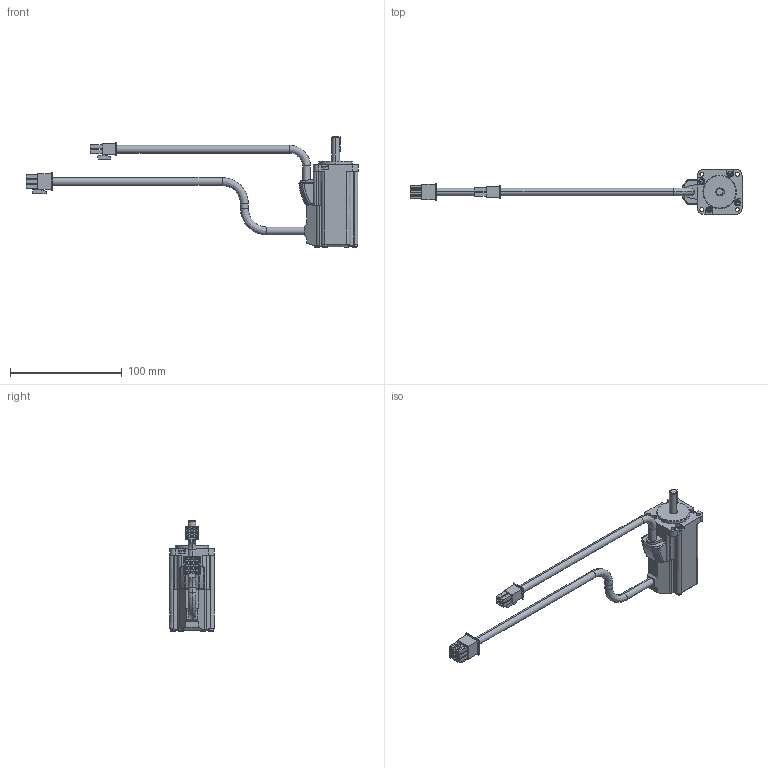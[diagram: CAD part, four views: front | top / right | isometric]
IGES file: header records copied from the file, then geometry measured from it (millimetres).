
Start section:  PTC IGES file: 10001018_rsmz-a3bq-bh_no-brake.igs
Global section: file name: 10001018_rsmz-a3bq-bh_no-brake.igs; native system: Pro/ENGINEER by Parametric Technology Corporation; preprocessor: 2004440; author: Administrator; organization: Unknown; date: 070829.201020; units: millimetre
Bounding box: 297.7 x 40 x 99.1 mm (x, y, z)
Volume: 134402.5 mm3; surface area: 31607.3 mm2
Topology: 1 solids, 1 shells, 466 faces, 1177 edges, 762 vertices
Faces by surface type: bspline 336, revolution 130
